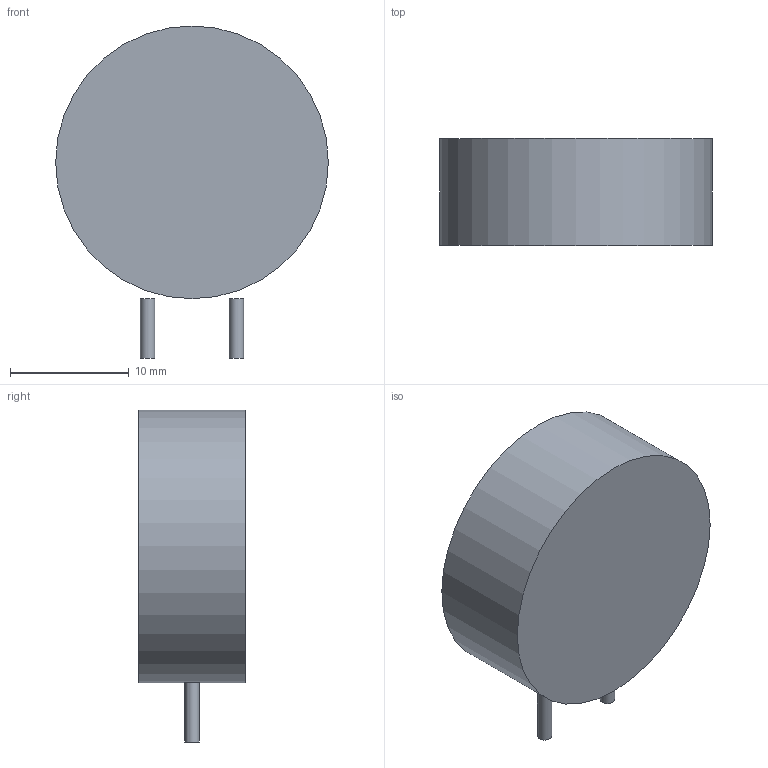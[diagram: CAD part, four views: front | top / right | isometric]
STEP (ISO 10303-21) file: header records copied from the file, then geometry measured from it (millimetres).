
FILE_DESCRIPTION(('Open CASCADE Model'),'2;1');
FILE_NAME('Open CASCADE Shape Model','2026-09-26T20:56:26',('Author'),( 'Open CASCADE'),'Open CASCADE STEP processor 7.9','Open CASCADE 7.9' ,'Unknown');
FILE_SCHEMA(('AUTOMOTIVE_DESIGN { 1 0 10303 214 1 1 1 1 }'));
Length unit declared in the file: millimetre
Products named in the file (4): Open CASCADE STEP translator 7.9 1; Open CASCADE STEP translator 7.9 1.1; Open CASCADE STEP translator 7.9 1.2; Open CASCADE STEP translator 7.9 1.3
Assembly tree (3 placements, depth 2):
  Open CASCADE STEP translator 7.9 1
    Open CASCADE STEP translator 7.9 1.1
    Open CASCADE STEP translator 7.9 1.2
    Open CASCADE STEP translator 7.9 1.3
Bounding box: 23 x 9 x 28 mm (x, y, z)
Volume: 3750.6 mm3; surface area: 1523.5 mm2
Topology: 3 solids, 3 shells, 9 faces, 9 edges, 6 vertices
Faces by surface type: plane 6, cylinder 3
Full cylindrical faces by diameter (mm): 1.2 x2, 23 x1
Entity records: 346 total; most frequent: DIRECTION 59, CARTESIAN_POINT 46, AXIS2_PLACEMENT_3D 19, ORIENTED_EDGE 18, PCURVE 18, DEFINITIONAL_REPRESENTATION 18, LINE 15, VECTOR 15
